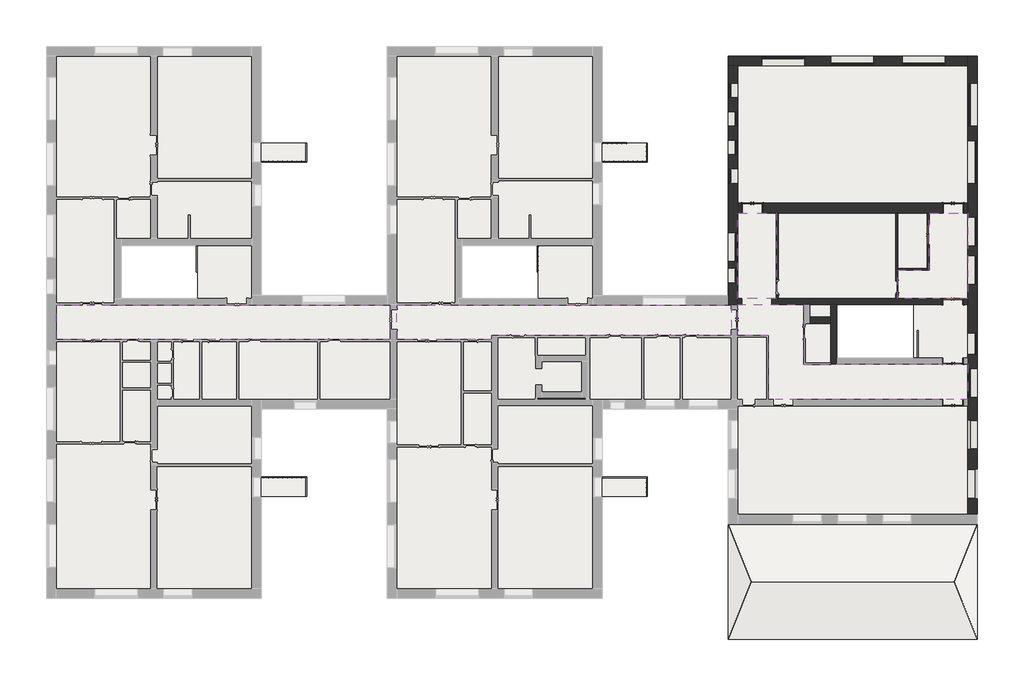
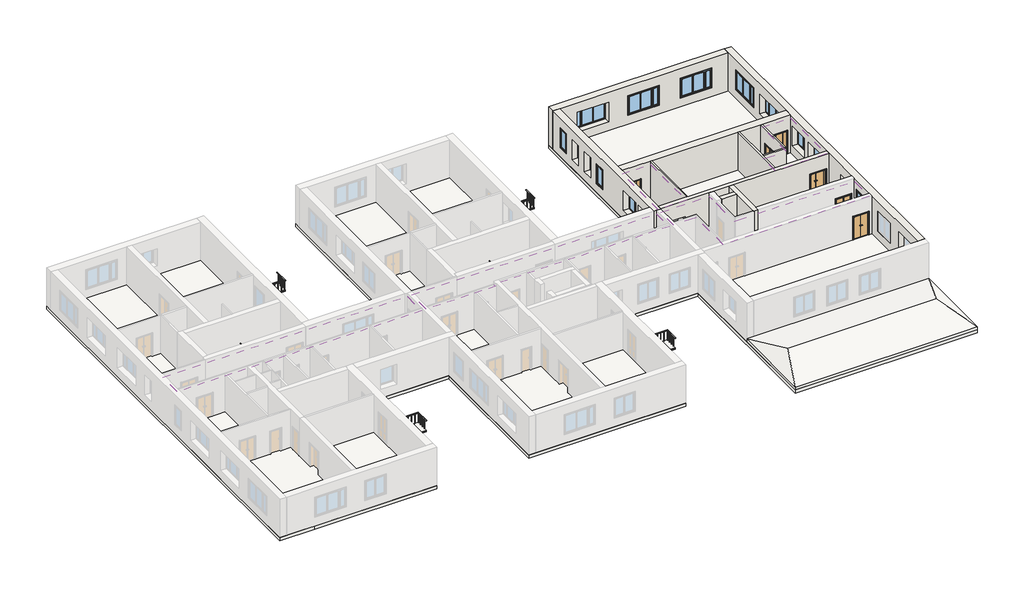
# One storey, part 4 of 4: 15 windows, 11 walls, 8 railings, 7 doors, 5 coverings, 5 slabs, 1 roof.
"""IFC4 building model written with IfcOpenShell, lengths in millimetres."""

from ifc_helpers import new_model, si_unit, frame, origin, place, context, project, spatial, polyline, outline, extrude, faceted_brep, transform, mapped, element, save
from components import door_6cda5d05, door_6ba15531, door_65913abd, door_e9d63ae3, door_53fc3f74, railing_7b2d479c, railing_28907bea, railing_1d3197ab, railing_a1995822, railing_34af6e40, railing_c3c35bb4, railing_029c4840, railing_70d821ff, window_17d24cb2, window_825c4489, window_d8f3b313, window_630a9bb4

model = new_model("IFC4")

# Units and contexts
model_context = context("Model", 3, world=origin())
ifc_project = project(units=[si_unit("LENGTHUNIT", "METRE", prefix="MILLI")], contexts=[model_context])

# Site, building, storey
site = spatial("IfcSite", under=ifc_project)
building = spatial("IfcBuilding", under=site)
storey = spatial("IfcBuildingStorey", under=building, Name="2 этаж", Elevation=3500.0)

# Coverings
placement = place(None, origin())
element("IfcCovering", 1, ObjectType="ADSK_Армстронг_600х600", at=placement, inside=storey, context=model_context, shape_type="SweptSolid", body=[
    extrude(outline(polyline([(-37832.3240021, 4024.6370105), (-37832.3240021, 6224.6370105), (-33922.7240021, 6224.6370105), (-25107.3240021, 6224.6370105), (-16612.3240021, 6224.6370105), (-16612.3240021, 4024.6370105), (-37832.3240021, 4024.6370105)])), frame((0.0, 0.0, 6700.0), z_axis=(0.0, 0.0, 1.0), x_axis=(1.0, 0.0, 0.0)), (0.0, 0.0, 1.0), 52.0),
])
element("IfcCovering", 2, ObjectType="ADSK_Армстронг_600х600", at=placement, inside=storey, context=model_context, shape_type="SweptSolid", body=[
    extrude(outline(polyline([(-3467.3240021, 6224.6370105), (5047.6759979, 6224.6370105), (5047.6759979, 4294.6370105), (-10172.3240021, 4294.6370105), (-10172.3240021, 4024.6370105), (-16192.3240021, 4024.6370105), (-16192.3240021, 6224.6370105), (-12282.3240021, 6224.6370105), (-3467.3240021, 6224.6370105)])), frame((0.0, 0.0, 6700.0), z_axis=(0.0, 0.0, 1.0), x_axis=(1.0, 0.0, 0.0)), (0.0, 0.0, 1.0), 52.0),
])
element("IfcCovering", 3, ObjectType="ADSK_Армстронг_600х600", at=placement, inside=storey, context=model_context, shape_type="SweptSolid", body=[
    extrude(outline(polyline([(11737.6759979, 2468.1849883), (20057.6759979, 2468.1849883), (20057.6759979, 204.6370105), (7387.6759979, 204.6370105), (7387.6759979, 4294.6370105), (5427.6759979, 4294.6370105), (5427.6759979, 6244.6370105), (9627.6759979, 6244.6370105), (9627.6759979, 5244.6370105), (9627.6759979, 2444.6370105), (11737.6759979, 2444.6370105), (11737.6759979, 2468.1849883)])), frame((0.0, 0.0, 6700.0), z_axis=(0.0, 0.0, 1.0), x_axis=(1.0, 0.0, 0.0)), (0.0, 0.0, 1.0), 52.0),
])
element("IfcCovering", 4, ObjectType="ADSK_Армстронг_600х600", at=placement, inside=storey, context=model_context, shape_type="SweptSolid", body=[
    extrude(outline(polyline([(5447.6759979, 6624.6370105), (5447.6759979, 12064.6370105), (7897.6759979, 12064.6370105), (7897.6759979, 6624.6370105), (5447.6759979, 6624.6370105)])), frame((0.0, 0.0, 6700.0), z_axis=(0.0, 0.0, 1.0), x_axis=(1.0, 0.0, 0.0)), (0.0, 0.0, 1.0), 52.0),
])
element("IfcCovering", 5, ObjectType="ADSK_Армстронг_600х600", at=placement, inside=storey, context=model_context, shape_type="SweptSolid", body=[
    extrude(outline(polyline([(20057.6759979, 12064.6370105), (20057.6759979, 6624.6370105), (15612.6759979, 6624.6370105), (15612.6759979, 8424.6370105), (17607.6759979, 8424.6370105), (17607.6759979, 12064.6370105), (20057.6759979, 12064.6370105)])), frame((0.0, 0.0, 6700.0), z_axis=(0.0, 0.0, 1.0), x_axis=(1.0, 0.0, 0.0)), (0.0, 0.0, 1.0), 52.0),
])

# Doors
door_shape = door_6cda5d05(model_context)
element("IfcDoor", 6, ObjectType="Наружная дверь 2-Навесная - Один проем наружу с порогом - 31173-2003 : ДСН ДКН М2 2100-1300 ГОСТ 31173-2003", at=placement, inside=storey, context=model_context, shape_type="MappedRepresentation", body=[
    mapped(door_shape, transform((17545.1759979, 10684.6370105, 3500.0), x_axis=(0.0, -1.0, 0.0), y_axis=(1.0, 0.0, 0.0), z_axis=(0.0, 0.0, 1.0))),
])
door_2_shape = door_6ba15531(model_context)
element("IfcDoor", 7, ObjectType="Наружная дверь 2-Навесная - Один проем наружу с порогом - 31173-2003 : ДСН ДКН М2 2100-1300 ГОСТ 31173-2003", at=placement, inside=storey, context=model_context, shape_type="MappedRepresentation", body=[
    mapped(door_2_shape, transform((19112.6759979, 4.6370105, 3500.0), x_axis=(1.0, 0.0, 0.0), y_axis=(0.0, 1.0, 0.0), z_axis=(0.0, 0.0, 1.0))),
])
door_3_shape = door_65913abd(model_context)
element("IfcDoor", 8, ObjectType="Наружная дверь 2-Навесная - Один проем наружу с порогом - 31173-2003 : ДСН ДКН М2 2100-1300 ГОСТ 31173-2003", at=placement, inside=storey, context=model_context, shape_type="MappedRepresentation", body=[
    mapped(door_3_shape, transform((19112.6759979, 6434.6370105, 3500.0), x_axis=(-1.0, 0.0, 0.0), y_axis=(0.0, -1.0, 0.0), z_axis=(0.0, 0.0, 1.0))),
])
element("IfcDoor", 9, ObjectType="Наружная дверь 2-Навесная - Один проем наружу с порогом - 31173-2003 : ДСН ДКН М2 2100-1300 ГОСТ 31173-2003", at=placement, inside=storey, context=model_context, shape_type="MappedRepresentation", body=[
    mapped(door_3_shape, transform((19112.6759979, 2658.1849883, 3500.0), x_axis=(1.0, 0.0, 0.0), y_axis=(0.0, 1.0, 0.0), z_axis=(0.0, 0.0, 1.0))),
])
door_4_shape = door_e9d63ae3(model_context)
element("IfcDoor", 10, ObjectType="Наружная дверь 2-Навесная - Один проем наружу с порогом - 31173-2003 : ДСН ДКН М2 2100-1300 ГОСТ 31173-2003", at=placement, inside=storey, context=model_context, shape_type="MappedRepresentation", body=[
    mapped(door_4_shape, transform((6382.6759979, 12384.6370105, 3500.0), x_axis=(-1.0, 0.0, 0.0), y_axis=(0.0, -1.0, 0.0), z_axis=(0.0, 0.0, 1.0))),
])
element("IfcDoor", 11, ObjectType="Наружная дверь 2-Навесная - Один проем наружу с порогом - 31173-2003 : ДСН ДКН М2 2100-1300 ГОСТ 31173-2003", at=placement, inside=storey, context=model_context, shape_type="MappedRepresentation", body=[
    mapped(door_4_shape, transform((19122.6759979, 12384.6370105, 3500.0), x_axis=(-1.0, 0.0, 0.0), y_axis=(0.0, -1.0, 0.0), z_axis=(0.0, 0.0, 1.0))),
])
door_5_shape = door_53fc3f74(model_context)
element("IfcDoor", 12, ObjectType="Внутренняя дверь 1-Навесная - 6629-88 : ДГ 21-9  ГОСТ 6629-88", at=placement, inside=storey, context=model_context, shape_type="MappedRepresentation", body=[
    mapped(door_5_shape, transform((15550.1759979, 7334.6370105, 3500.0), x_axis=(0.0, 1.0, 0.0), y_axis=(-1.0, 0.0, 0.0), z_axis=(0.0, 0.0, 1.0))),
])

# Railings
railing_shape = railing_7b2d479c(model_context)
element("IfcRailing", 13, ObjectType="ADSK_Стандартное_h 900 Поручень квадратный без направляющих", at=placement, inside=storey, context=model_context, shape_type="MappedRepresentation", body=[
    mapped(railing_shape, transform((0.0, 0.0, 0.0), x_axis=(1.0, 0.0, 0.0), y_axis=(0.0, 1.0, 0.0), z_axis=(0.0, 0.0, 1.0))),
])
railing_2_shape = railing_28907bea(model_context)
element("IfcRailing", 14, ObjectType="ADSK_Стандартное_h 900 Поручень квадратный без направляющих", at=placement, inside=storey, context=model_context, shape_type="MappedRepresentation", body=[
    mapped(railing_2_shape, transform((0.0, 0.0, 0.0), x_axis=(1.0, 0.0, 0.0), y_axis=(0.0, 1.0, 0.0), z_axis=(0.0, 0.0, 1.0))),
])
railing_3_shape = railing_1d3197ab(model_context)
element("IfcRailing", 15, ObjectType="ADSK_Стандартное_h 900 Поручень квадратный без направляющих", at=placement, inside=storey, context=model_context, shape_type="MappedRepresentation", body=[
    mapped(railing_3_shape, transform((0.0, 0.0, 0.0), x_axis=(1.0, 0.0, 0.0), y_axis=(0.0, 1.0, 0.0), z_axis=(0.0, 0.0, 1.0))),
])
railing_4_shape = railing_a1995822(model_context)
element("IfcRailing", 16, ObjectType="ADSK_Стандартное_h 900 Поручень квадратный без направляющих", at=placement, inside=storey, context=model_context, shape_type="MappedRepresentation", body=[
    mapped(railing_4_shape, transform((0.0, 0.0, 0.0), x_axis=(1.0, 0.0, 0.0), y_axis=(0.0, 1.0, 0.0), z_axis=(0.0, 0.0, 1.0))),
])
railing_5_shape = railing_34af6e40(model_context)
element("IfcRailing", 17, ObjectType="ADSK_Стандартное_h 900 Поручень квадратный без направляющих", at=placement, inside=storey, context=model_context, shape_type="MappedRepresentation", body=[
    mapped(railing_5_shape, transform((0.0, 0.0, 0.0), x_axis=(1.0, 0.0, 0.0), y_axis=(0.0, 1.0, 0.0), z_axis=(0.0, 0.0, 1.0))),
])
railing_6_shape = railing_c3c35bb4(model_context)
element("IfcRailing", 18, ObjectType="ADSK_Стандартное_h 900 Поручень квадратный без направляющих", at=placement, inside=storey, context=model_context, shape_type="MappedRepresentation", body=[
    mapped(railing_6_shape, transform((0.0, 0.0, 0.0), x_axis=(1.0, 0.0, 0.0), y_axis=(0.0, 1.0, 0.0), z_axis=(0.0, 0.0, 1.0))),
])
railing_7_shape = railing_029c4840(model_context)
element("IfcRailing", 19, ObjectType="ADSK_Стандартное_h 900 Поручень квадратный без направляющих", at=placement, inside=storey, context=model_context, shape_type="MappedRepresentation", body=[
    mapped(railing_7_shape, transform((0.0, 0.0, 0.0), x_axis=(1.0, 0.0, 0.0), y_axis=(0.0, 1.0, 0.0), z_axis=(0.0, 0.0, 1.0))),
])
railing_8_shape = railing_70d821ff(model_context)
element("IfcRailing", 20, ObjectType="ADSK_Стандартное_h 900 Поручень квадратный без направляющих", at=placement, inside=storey, context=model_context, shape_type="MappedRepresentation", body=[
    mapped(railing_8_shape, transform((0.0, 0.0, 0.0), x_axis=(1.0, 0.0, 0.0), y_axis=(0.0, 1.0, 0.0), z_axis=(0.0, 0.0, 1.0))),
])

# Roof
element("IfcRoof", 21, ObjectType="ADSK_Скатная_Мягкая_Ут200 доска30 покрытие10 (240)", at=placement, inside=storey, context=model_context, shape_type="Brep", body=[
    faceted_brep([(19143.4949762, -11365.3629895, 4349.2341177), (20614.4116155, -15025.3629895, 3500.0), (4890.9403803, -15025.3629895, 3500.0), (6361.8570196, -11365.3629895, 4349.2341177), (4890.9403803, -7705.3629895, 3500.0), (20614.4116155, -7705.3629895, 3500.0), (20667.6759979, -15025.3629895, 3746.3759237), (19196.7593586, -11365.3629895, 4595.6100414), (6308.5926372, -11365.3629895, 4595.6100414), (4837.6759979, -15025.3629895, 3746.3759237), (4837.6759979, -7705.3629895, 3746.3759237), (20667.6759979, -7705.3629895, 3746.3759237), (20667.6759979, -7705.3629895, 3500.0), (20667.6759979, -15025.3629895, 3500.0), (4837.6759979, -7705.3629895, 3500.0), (4837.6759979, -15025.3629895, 3500.0)], [[[0, 1, 2, 3]], [[4, 3, 2]], [[5, 0, 3, 4]], [[1, 0, 5]], [[6, 7, 8, 9]], [[10, 9, 8]], [[11, 10, 8, 7]], [[6, 11, 7]], [[12, 11, 6, 13]], [[14, 10, 11, 12, 5, 4]], [[15, 9, 10, 14]], [[13, 6, 9, 15, 2, 1]], [[13, 1, 5, 12]], [[2, 15, 14, 4]]]),
])

# Slabs
element("IfcSlab", 22, ObjectType="ADSK_Перекрытие_Плита с полом_Бетон220 лаги40 доска40_300", at=placement, inside=storey, context=model_context, shape_type="SweptSolid", body=[
    extrude(outline(polyline([(-38442.3240021, -12415.3629895), (-38442.3240021, 22644.6370105), (-24802.3240021, 22644.6370105), (-24802.3240021, 6834.6370105), (-16802.3240021, 6834.6370105), (-16802.3240021, 22644.6370105), (-3162.3240021, 22644.6370105), (-3162.3240021, 16519.4362632), (-3162.3240021, 15097.1370105), (-3162.3240021, 6834.6370105), (4837.6759979, 6834.6370105), (4837.6759979, 22034.6370105), (20667.6759979, 22034.6370105), (20667.6759979, -15025.3629895), (4837.6759979, -15025.3629895), (4837.6759979, -385.3629895), (-3162.3240021, -385.3629895), (-3162.3240021, -12415.3629895), (-16802.3240021, -12415.3629895), (-16802.3240021, -385.3629895), (-24802.3240021, -385.3629895), (-24802.3240021, -12415.3629895), (-35377.3240021, -12415.3629895), (-38442.3240021, -12415.3629895)]), holes=[polyline([(-28882.0291278, 10004.6370105), (-33712.7240021, 10004.6370105), (-33712.7240021, 6644.6370105), (-28882.0291278, 6644.6370105), (-28882.0291278, 10004.6370105)]), polyline([(-7241.6291278, 10004.6370105), (-12072.3240021, 10004.6370105), (-12072.3240021, 6644.6370105), (-7241.6291278, 6644.6370105), (-7241.6291278, 10004.6370105)]), polyline([(11737.6759979, 6244.6370105), (11737.6759979, 2848.1849883), (16582.6759979, 2848.1849883), (16582.6759979, 6244.6370105), (11737.6759979, 6244.6370105)])]), frame((0.0, 0.0, 3200.0), z_axis=(0.0, 0.0, 1.0), x_axis=(1.0, 0.0, 0.0)), (0.0, 0.0, 1.0), 300.0),
])
element("IfcSlab", 23, ObjectType="ADSK_Монолитная_С отделкой_200х80", at=placement, inside=storey, context=model_context, shape_type="SweptSolid", body=[
    extrude(outline(polyline([(-312.3240021, 16519.4362632), (-312.3240021, 15318.4207341), (-3162.3240021, 15318.4207341), (-3162.3240021, 16519.4362632), (-312.3240021, 16519.4362632)])), frame((0.0, 0.0, 3500.0), z_axis=(0.0, 0.0, 1.0), x_axis=(1.0, 0.0, 0.0)), (0.0, 0.0, 1.0), 65.8333333),
    extrude(outline(polyline([(-312.3240021, 15318.4207341), (-3162.3240021, 15318.4207341), (-3162.3240021, 16519.4362632), (-312.3240021, 16519.4362632), (-312.3240021, 15318.4207341)])), frame((0.0, 0.0, 3565.8333333), z_axis=(0.0, 0.0, 1.0), x_axis=(1.0, 0.0, 0.0)), (0.0, 0.0, 1.0), 80.0),
])
element("IfcSlab", 24, ObjectType="ADSK_Монолитная_С отделкой_200х80", at=placement, inside=storey, context=model_context, shape_type="SweptSolid", body=[
    extrude(outline(polyline([(-21952.3240021, 16519.4362632), (-21952.3240021, 15318.4207341), (-24802.3240021, 15318.4207341), (-24802.3240021, 16519.4362632), (-21952.3240021, 16519.4362632)])), frame((0.0, 0.0, 3500.0), z_axis=(0.0, 0.0, 1.0), x_axis=(1.0, 0.0, 0.0)), (0.0, 0.0, 1.0), 65.8333333),
    extrude(outline(polyline([(-21952.3240021, 15318.4207341), (-24802.3240021, 15318.4207341), (-24802.3240021, 16519.4362632), (-21952.3240021, 16519.4362632), (-21952.3240021, 15318.4207341)])), frame((0.0, 0.0, 3565.8333333), z_axis=(0.0, 0.0, 1.0), x_axis=(1.0, 0.0, 0.0)), (0.0, 0.0, 1.0), 80.0),
])
element("IfcSlab", 25, ObjectType="ADSK_Монолитная_С отделкой_200х80", at=placement, inside=storey, context=model_context, shape_type="SweptSolid", body=[
    extrude(outline(polyline([(-24802.3240021, -4725.3629895), (-21952.3240021, -4725.3629895), (-21952.3240021, -5926.3785186), (-24802.3240021, -5926.3785186), (-24802.3240021, -4725.3629895)])), frame((0.0, 0.0, 3500.0), z_axis=(0.0, 0.0, 1.0), x_axis=(1.0, 0.0, 0.0)), (0.0, 0.0, 1.0), 65.8333333),
    extrude(outline(polyline([(-21952.3240021, -4725.3629895), (-21952.3240021, -5926.3785186), (-24802.3240021, -5926.3785186), (-24802.3240021, -4725.3629895), (-21952.3240021, -4725.3629895)])), frame((0.0, 0.0, 3565.8333333), z_axis=(0.0, 0.0, 1.0), x_axis=(1.0, 0.0, 0.0)), (0.0, 0.0, 1.0), 80.0),
])
element("IfcSlab", 26, ObjectType="ADSK_Монолитная_С отделкой_200х80", at=placement, inside=storey, context=model_context, shape_type="SweptSolid", body=[
    extrude(outline(polyline([(-3162.3240021, -4730.5622422), (-312.3240021, -4730.5622422), (-312.3240021, -5931.5777713), (-3162.3240021, -5931.5777713), (-3162.3240021, -4730.5622422)])), frame((0.0, 0.0, 3500.0), z_axis=(0.0, 0.0, 1.0), x_axis=(1.0, 0.0, 0.0)), (0.0, 0.0, 1.0), 65.8333333),
    extrude(outline(polyline([(-312.3240021, -4730.5622422), (-312.3240021, -5931.5777713), (-3162.3240021, -5931.5777713), (-3162.3240021, -4730.5622422), (-312.3240021, -4730.5622422)])), frame((0.0, 0.0, 3565.8333333), z_axis=(0.0, 0.0, 1.0), x_axis=(1.0, 0.0, 0.0)), (0.0, 0.0, 1.0), 80.0),
])

# Walls
element("IfcWall", 27, ObjectType="ADSK_Внутренняя_Кирпич_610", at=placement, inside=storey, context=model_context, shape_type="Brep", body=[
    faceted_brep([(20667.6759979, -7095.3629895, 3500.0), (20667.6759979, 22034.6370105, 3500.0), (20667.6759979, 22034.6370105, 7000.0), (20667.6759979, -7095.3629895, 7000.0), (20667.6759979, 9349.6370105, 6120.0), (20667.6759979, 9349.6370105, 4300.0), (20667.6759979, 7519.6370105, 4300.0), (20667.6759979, 7519.6370105, 6120.0), (20667.6759979, 359.6370105, 4300.0), (20667.6759979, 359.6370105, 6120.0), (20667.6759979, 2189.6370105, 6120.0), (20667.6759979, 2189.6370105, 4300.0), (20667.6759979, -2940.3629895, 4300.0), (20667.6759979, -2940.3629895, 6120.0), (20667.6759979, -1110.3629895, 6120.0), (20667.6759979, -1110.3629895, 4300.0), (20667.6759979, 4448.1849883, 6120.0), (20667.6759979, 4448.1849883, 4300.0), (20667.6759979, 3068.1849883, 4300.0), (20667.6759979, 3068.1849883, 6120.0), (20667.6759979, -4225.3629895, 6120.0), (20667.6759979, -4225.3629895, 4300.0), (20667.6759979, -6055.3629895, 4300.0), (20667.6759979, -6055.3629895, 6120.0), (20667.6759979, 17584.6370105, 4300.0), (20667.6759979, 17584.6370105, 6120.0), (20667.6759979, 20314.6370105, 6120.0), (20667.6759979, 20314.6370105, 4300.0), (20667.6759979, 16649.6370105, 4300.0), (20667.6759979, 13919.6370105, 4300.0), (20667.6759979, 13919.6370105, 6120.0), (20667.6759979, 16649.6370105, 6120.0), (20667.6759979, 11799.6370105, 4300.0), (20667.6759979, 9969.6370105, 4300.0), (20667.6759979, 9969.6370105, 6120.0), (20667.6759979, 11799.6370105, 6120.0), (20057.6759979, 22034.6370105, 3500.0), (20057.6759979, 21424.6370105, 3500.0), (20057.6759979, 12704.6370105, 3500.0), (20057.6759979, 12064.6370105, 3500.0), (20057.6759979, 6624.6370105, 3500.0), (20057.6759979, 6244.6370105, 3500.0), (20057.6759979, 2848.1849883, 3500.0), (20057.6759979, 2468.1849883, 3500.0), (20057.6759979, 204.6370105, 3500.0), (20057.6759979, -195.3629895, 3500.0), (20057.6759979, -7095.3629895, 3500.0), (20057.6759979, -7095.3629895, 7000.0), (20057.6759979, -195.3629895, 7000.0), (20057.6759979, 204.6370105, 7000.0), (20057.6759979, 2468.1849883, 7000.0), (20057.6759979, 2848.1849883, 7000.0), (20057.6759979, 6244.6370105, 7000.0), (20057.6759979, 6624.6370105, 7000.0), (20057.6759979, 12064.6370105, 7000.0), (20057.6759979, 12704.6370105, 7000.0), (20057.6759979, 21424.6370105, 7000.0), (20057.6759979, 22034.6370105, 7000.0), (20057.6759979, 9349.6370105, 4300.0), (20057.6759979, 9349.6370105, 6120.0), (20057.6759979, 7519.6370105, 6120.0), (20057.6759979, 7519.6370105, 4300.0), (20057.6759979, 359.6370105, 6120.0), (20057.6759979, 359.6370105, 4300.0), (20057.6759979, 2189.6370105, 4300.0), (20057.6759979, 2189.6370105, 6120.0), (20057.6759979, -2940.3629895, 6120.0), (20057.6759979, -2940.3629895, 4300.0), (20057.6759979, -1110.3629895, 4300.0), (20057.6759979, -1110.3629895, 6120.0), (20057.6759979, 4448.1849883, 4300.0), (20057.6759979, 4448.1849883, 6120.0), (20057.6759979, 3068.1849883, 6120.0), (20057.6759979, 3068.1849883, 4300.0), (20057.6759979, -4225.3629895, 4300.0), (20057.6759979, -4225.3629895, 6120.0), (20057.6759979, -6055.3629895, 6120.0), (20057.6759979, -6055.3629895, 4300.0), (20057.6759979, 17584.6370105, 6120.0), (20057.6759979, 17584.6370105, 4300.0), (20057.6759979, 20314.6370105, 4300.0), (20057.6759979, 20314.6370105, 6120.0), (20057.6759979, 16649.6370105, 4300.0), (20057.6759979, 16649.6370105, 6120.0), (20057.6759979, 13919.6370105, 6120.0), (20057.6759979, 13919.6370105, 4300.0), (20057.6759979, 11799.6370105, 4300.0), (20057.6759979, 11799.6370105, 6120.0), (20057.6759979, 9969.6370105, 6120.0), (20057.6759979, 9969.6370105, 4300.0)], [[[0, 1, 2, 3], [4, 5, 6, 7], [8, 9, 10, 11], [12, 13, 14, 15], [16, 17, 18, 19], [20, 21, 22, 23], [24, 25, 26, 27], [28, 29, 30, 31], [32, 33, 34, 35]], [[36, 37, 38, 39, 40, 41, 42, 43, 44, 45, 46, 47, 48, 49, 50, 51, 52, 53, 54, 55, 56, 57], [58, 59, 60, 61], [62, 63, 64, 65], [66, 67, 68, 69], [70, 71, 72, 73], [74, 75, 76, 77], [78, 79, 80, 81], [82, 83, 84, 85], [86, 87, 88, 89]], [[1, 0, 46, 45, 44, 43, 42, 41, 40, 39, 38, 37, 36]], [[0, 3, 47, 46]], [[2, 1, 36, 57]], [[59, 58, 5, 4]], [[60, 59, 4, 7]], [[61, 60, 7, 6]], [[58, 61, 6, 5]], [[9, 8, 63, 62]], [[10, 9, 62, 65]], [[11, 10, 65, 64]], [[8, 11, 64, 63]], [[13, 12, 67, 66]], [[14, 13, 66, 69]], [[15, 14, 69, 68]], [[12, 15, 68, 67]], [[71, 70, 17, 16]], [[72, 71, 16, 19]], [[73, 72, 19, 18]], [[70, 73, 18, 17]], [[75, 74, 21, 20]], [[76, 75, 20, 23]], [[77, 76, 23, 22]], [[74, 77, 22, 21]], [[24, 79, 78, 25]], [[25, 78, 81, 26]], [[26, 81, 80, 27]], [[79, 24, 27, 80]], [[83, 82, 28, 31]], [[84, 83, 31, 30]], [[85, 84, 30, 29]], [[82, 85, 29, 28]], [[87, 86, 32, 35]], [[88, 87, 35, 34]], [[89, 88, 34, 33]], [[86, 89, 33, 32]], [[3, 2, 57, 56, 55, 54, 53, 52, 51, 50, 49, 48, 47]]]),
])
element("IfcWall", 28, ObjectType="ADSK_Внутренняя_Кирпич_610", at=placement, inside=storey, context=model_context, shape_type="Brep", body=[
    faceted_brep([(20057.6759979, 22034.6370105, 3500.0), (4837.6759979, 22034.6370105, 3500.0), (4837.6759979, 22034.6370105, 7000.0), (20057.6759979, 22034.6370105, 7000.0), (6957.6759979, 22034.6370105, 4300.0), (9687.6759979, 22034.6370105, 4300.0), (9687.6759979, 22034.6370105, 6120.0), (6957.6759979, 22034.6370105, 6120.0), (14087.6759979, 22034.6370105, 4300.0), (14087.6759979, 22034.6370105, 6120.0), (11357.6759979, 22034.6370105, 6120.0), (11357.6759979, 22034.6370105, 4300.0), (18627.6759979, 22034.6370105, 4300.0), (18627.6759979, 22034.6370105, 6120.0), (15897.6759979, 22034.6370105, 6120.0), (15897.6759979, 22034.6370105, 4300.0), (20057.6759979, 21424.6370105, 3500.0), (20057.6759979, 21424.6370105, 7000.0), (5447.6759979, 21424.6370105, 7000.0), (4837.6759979, 21424.6370105, 7000.0), (4837.6759979, 21424.6370105, 3500.0), (5447.6759979, 21424.6370105, 3500.0), (6957.6759979, 21424.6370105, 4300.0), (6957.6759979, 21424.6370105, 6120.0), (9687.6759979, 21424.6370105, 6120.0), (9687.6759979, 21424.6370105, 4300.0), (14087.6759979, 21424.6370105, 4300.0), (11357.6759979, 21424.6370105, 4300.0), (11357.6759979, 21424.6370105, 6120.0), (14087.6759979, 21424.6370105, 6120.0), (18627.6759979, 21424.6370105, 4300.0), (15897.6759979, 21424.6370105, 4300.0), (15897.6759979, 21424.6370105, 6120.0), (18627.6759979, 21424.6370105, 6120.0)], [[[0, 1, 2, 3], [4, 5, 6, 7], [8, 9, 10, 11], [12, 13, 14, 15]], [[16, 17, 18, 19, 20, 21], [22, 23, 24, 25], [26, 27, 28, 29], [30, 31, 32, 33]], [[1, 0, 16, 21, 20]], [[0, 3, 17, 16]], [[2, 1, 20, 19]], [[23, 22, 4, 7]], [[24, 23, 7, 6]], [[25, 24, 6, 5]], [[22, 25, 5, 4]], [[9, 8, 26, 29]], [[10, 9, 29, 28]], [[11, 10, 28, 27]], [[8, 11, 27, 26]], [[13, 12, 30, 33]], [[14, 13, 33, 32]], [[15, 14, 32, 31]], [[12, 15, 31, 30]], [[3, 2, 19, 18, 17]]]),
])
element("IfcWall", 29, ObjectType="ADSK_Внутренняя_Кирпич_610", at=placement, inside=storey, context=model_context, shape_type="Brep", body=[
    faceted_brep([(4837.6759979, 21424.6370105, 3500.0), (4837.6759979, 6834.6370105, 3500.0), (4837.6759979, 6224.6370105, 3500.0), (4837.6759979, 6224.6370105, 7000.0), (4837.6759979, 6834.6370105, 7000.0), (4837.6759979, 21424.6370105, 7000.0), (4837.6759979, 19399.6370105, 4300.0), (4837.6759979, 20329.6370105, 4300.0), (4837.6759979, 20329.6370105, 6120.0), (4837.6759979, 19399.6370105, 6120.0), (4837.6759979, 18509.6370105, 4300.0), (4837.6759979, 18509.6370105, 6120.0), (4837.6759979, 17579.6370105, 6120.0), (4837.6759979, 17579.6370105, 4300.0), (4837.6759979, 16689.6370105, 4300.0), (4837.6759979, 16689.6370105, 6120.0), (4837.6759979, 15759.6370105, 6120.0), (4837.6759979, 15759.6370105, 4300.0), (4837.6759979, 13939.6370105, 4300.0), (4837.6759979, 14869.6370105, 4300.0), (4837.6759979, 14869.6370105, 6120.0), (4837.6759979, 13939.6370105, 6120.0), (4837.6759979, 8559.6370105, 4300.0), (4837.6759979, 8559.6370105, 6120.0), (4837.6759979, 7629.6370105, 6120.0), (4837.6759979, 7629.6370105, 4300.0), (4837.6759979, 10809.6370105, 4300.0), (4837.6759979, 10809.6370105, 6120.0), (4837.6759979, 8979.6370105, 6120.0), (4837.6759979, 8979.6370105, 4300.0), (5447.6759979, 21424.6370105, 3500.0), (5447.6759979, 21424.6370105, 7000.0), (5447.6759979, 12704.6370105, 7000.0), (5447.6759979, 12064.6370105, 7000.0), (5447.6759979, 6624.6370105, 7000.0), (5447.6759979, 6244.6370105, 7000.0), (5447.6759979, 6224.6370105, 7000.0), (5447.6759979, 6224.6370105, 3500.0), (5447.6759979, 6244.6370105, 3500.0), (5447.6759979, 6624.6370105, 3500.0), (5447.6759979, 12064.6370105, 3500.0), (5447.6759979, 12704.6370105, 3500.0), (5447.6759979, 19399.6370105, 4300.0), (5447.6759979, 19399.6370105, 6120.0), (5447.6759979, 20329.6370105, 6120.0), (5447.6759979, 20329.6370105, 4300.0), (5447.6759979, 18509.6370105, 4300.0), (5447.6759979, 17579.6370105, 4300.0), (5447.6759979, 17579.6370105, 6120.0), (5447.6759979, 18509.6370105, 6120.0), (5447.6759979, 16689.6370105, 4300.0), (5447.6759979, 15759.6370105, 4300.0), (5447.6759979, 15759.6370105, 6120.0), (5447.6759979, 16689.6370105, 6120.0), (5447.6759979, 13939.6370105, 4300.0), (5447.6759979, 13939.6370105, 6120.0), (5447.6759979, 14869.6370105, 6120.0), (5447.6759979, 14869.6370105, 4300.0), (5447.6759979, 8559.6370105, 4300.0), (5447.6759979, 7629.6370105, 4300.0), (5447.6759979, 7629.6370105, 6120.0), (5447.6759979, 8559.6370105, 6120.0), (5447.6759979, 10809.6370105, 4300.0), (5447.6759979, 8979.6370105, 4300.0), (5447.6759979, 8979.6370105, 6120.0), (5447.6759979, 10809.6370105, 6120.0), (5427.6759979, 6224.6370105, 3500.0), (5047.6759979, 6224.6370105, 3500.0), (5427.6759979, 6224.6370105, 7000.0), (5047.6759979, 6224.6370105, 7000.0)], [[[0, 1, 2, 3, 4, 5], [6, 7, 8, 9], [10, 11, 12, 13], [14, 15, 16, 17], [18, 19, 20, 21], [22, 23, 24, 25], [26, 27, 28, 29]], [[30, 31, 32, 33, 34, 35, 36, 37, 38, 39, 40, 41], [42, 43, 44, 45], [46, 47, 48, 49], [50, 51, 52, 53], [54, 55, 56, 57], [58, 59, 60, 61], [62, 63, 64, 65]], [[2, 1, 0, 30, 41, 40, 39, 38, 37, 66, 67]], [[0, 5, 31, 30]], [[3, 2, 67, 66, 37, 36, 68, 69]], [[43, 42, 6, 9]], [[44, 43, 9, 8]], [[45, 44, 8, 7]], [[42, 45, 7, 6]], [[11, 10, 46, 49]], [[12, 11, 49, 48]], [[13, 12, 48, 47]], [[10, 13, 47, 46]], [[15, 14, 50, 53]], [[16, 15, 53, 52]], [[17, 16, 52, 51]], [[14, 17, 51, 50]], [[55, 54, 18, 21]], [[56, 55, 21, 20]], [[57, 56, 20, 19]], [[54, 57, 19, 18]], [[23, 22, 58, 61]], [[24, 23, 61, 60]], [[25, 24, 60, 59]], [[22, 25, 59, 58]], [[27, 26, 62, 65]], [[28, 27, 65, 64]], [[29, 28, 64, 63]], [[26, 29, 63, 62]], [[5, 4, 3, 69, 68, 36, 35, 34, 33, 32, 31]]]),
])
element("IfcWall", 30, ObjectType="ADSK_Внутренняя_Перегородка_75_25x2", at=placement, inside=storey, context=model_context, shape_type="SweptSolid", body=[
    extrude(outline(polyline([(12064.6370105, 7000.0), (12064.6370105, 3500.0), (7789.6370105, 3500.0), (7789.6370105, 5570.0), (6879.6370105, 5570.0), (6879.6370105, 3500.0), (6624.6370105, 3500.0), (6624.6370105, 7000.0), (12064.6370105, 7000.0)])), frame((7897.6759979, 0.0, 0.0), z_axis=(1.0, 0.0, 0.0), x_axis=(0.0, 1.0, 0.0)), (0.0, 0.0, 1.0), 125.0),
])
element("IfcWall", 31, ObjectType="ADSK_Внутренняя_Перегородка_75_25x2", at=placement, inside=storey, context=model_context, shape_type="Brep", body=[
    faceted_brep([(15487.6759979, 12064.6370105, 7000.0), (15487.6759979, 12064.6370105, 3500.0), (15487.6759979, 7789.6370105, 3500.0), (15487.6759979, 7789.6370105, 5570.0), (15487.6759979, 6879.6370105, 5570.0), (15487.6759979, 6879.6370105, 3500.0), (15487.6759979, 6624.6370105, 3500.0), (15487.6759979, 6624.6370105, 7000.0), (15612.6759979, 12064.6370105, 3500.0), (15612.6759979, 12064.6370105, 7000.0), (15612.6759979, 8549.6370105, 7000.0), (15612.6759979, 8424.6370105, 7000.0), (15612.6759979, 6624.6370105, 7000.0), (15612.6759979, 6624.6370105, 3500.0), (15612.6759979, 6879.6370105, 3500.0), (15612.6759979, 6879.6370105, 5570.0), (15612.6759979, 7789.6370105, 5570.0), (15612.6759979, 7789.6370105, 3500.0), (15612.6759979, 8424.6370105, 3500.0), (15612.6759979, 8549.6370105, 3500.0)], [[[0, 1, 2, 3, 4, 5, 6, 7]], [[8, 9, 10, 11, 12, 13, 14, 15, 16, 17, 18, 19]], [[1, 8, 19, 18, 17, 2]], [[13, 6, 5, 14]], [[1, 0, 9, 8]], [[7, 6, 13, 12]], [[16, 3, 2, 17]], [[3, 16, 15, 4]], [[4, 15, 14, 5]], [[0, 7, 12, 11, 10, 9]]]),
])
element("IfcWall", 32, ObjectType="ADSK_Внутренняя_Перегородка_75_25x2", at=placement, inside=storey, context=model_context, shape_type="Brep", body=[
    faceted_brep([(15612.6759979, 8424.6370105, 3500.0), (17607.6759979, 8424.6370105, 3500.0), (17607.6759979, 8424.6370105, 7000.0), (15612.6759979, 8424.6370105, 7000.0), (15612.6759979, 8549.6370105, 3500.0), (15612.6759979, 8549.6370105, 7000.0), (17482.6759979, 8549.6370105, 7000.0), (17607.6759979, 8549.6370105, 7000.0), (17607.6759979, 8549.6370105, 3500.0), (17482.6759979, 8549.6370105, 3500.0)], [[[0, 1, 2, 3]], [[4, 5, 6, 7, 8, 9]], [[1, 0, 4, 9, 8]], [[0, 3, 5, 4]], [[2, 1, 8, 7]], [[3, 2, 7, 6, 5]]]),
])
element("IfcWall", 33, ObjectType="ADSK_Внутренняя_Перегородка_75_25x2", at=placement, inside=storey, context=model_context, shape_type="SweptSolid", body=[
    extrude(outline(polyline([(8549.6370105, 3500.0), (8549.6370105, 7000.0), (12064.6370105, 7000.0), (12064.6370105, 3500.0), (11354.6370105, 3500.0), (11354.6370105, 5620.0), (10014.6370105, 5620.0), (10014.6370105, 3500.0), (8549.6370105, 3500.0)])), frame((17482.6759979, 0.0, 0.0), z_axis=(1.0, 0.0, 0.0), x_axis=(0.0, 1.0, 0.0)), (0.0, 0.0, 1.0), 125.0),
])
element("IfcWall", 34, ObjectType="ADSK_Внутренняя_Кирпич_640", at=placement, inside=storey, context=model_context, shape_type="Brep", body=[
    faceted_brep([(20057.6759979, 12064.6370105, 3500.0), (20057.6759979, 12064.6370105, 7000.0), (17607.6759979, 12064.6370105, 7000.0), (17482.6759979, 12064.6370105, 7000.0), (15612.6759979, 12064.6370105, 7000.0), (15487.6759979, 12064.6370105, 7000.0), (8022.6759979, 12064.6370105, 7000.0), (7897.6759979, 12064.6370105, 7000.0), (5447.6759979, 12064.6370105, 7000.0), (5447.6759979, 12064.6370105, 3500.0), (5712.6759979, 12064.6370105, 3500.0), (5712.6759979, 12064.6370105, 5620.0), (7052.6759979, 12064.6370105, 5620.0), (7052.6759979, 12064.6370105, 3500.0), (7897.6759979, 12064.6370105, 3500.0), (8022.6759979, 12064.6370105, 3500.0), (15487.6759979, 12064.6370105, 3500.0), (15612.6759979, 12064.6370105, 3500.0), (17482.6759979, 12064.6370105, 3500.0), (17607.6759979, 12064.6370105, 3500.0), (18452.6759979, 12064.6370105, 3500.0), (18452.6759979, 12064.6370105, 5620.0), (19792.6759979, 12064.6370105, 5620.0), (19792.6759979, 12064.6370105, 3500.0), (20057.6759979, 12704.6370105, 7000.0), (20057.6759979, 12704.6370105, 3500.0), (19792.6759979, 12704.6370105, 3500.0), (19792.6759979, 12704.6370105, 5620.0), (18452.6759979, 12704.6370105, 5620.0), (18452.6759979, 12704.6370105, 3500.0), (7052.6759979, 12704.6370105, 3500.0), (7052.6759979, 12704.6370105, 5620.0), (5712.6759979, 12704.6370105, 5620.0), (5712.6759979, 12704.6370105, 3500.0), (5447.6759979, 12704.6370105, 3500.0), (5447.6759979, 12704.6370105, 7000.0)], [[[0, 1, 2, 3, 4, 5, 6, 7, 8, 9, 10, 11, 12, 13, 14, 15, 16, 17, 18, 19, 20, 21, 22, 23]], [[24, 25, 26, 27, 28, 29, 30, 31, 32, 33, 34, 35]], [[9, 34, 33, 10]], [[25, 0, 23, 26]], [[13, 30, 29, 20, 19, 18, 17, 16, 15, 14]], [[1, 0, 25, 24]], [[9, 8, 35, 34]], [[32, 11, 10, 33]], [[11, 32, 31, 12]], [[12, 31, 30, 13]], [[28, 21, 20, 29]], [[21, 28, 27, 22]], [[22, 27, 26, 23]], [[8, 7, 6, 5, 4, 3, 2, 1, 24, 35]]]),
])
element("IfcWall", 35, ObjectType="ADSK_Внутренняя_Кирпич_380", at=placement, inside=storey, context=model_context, shape_type="Brep", body=[
    faceted_brep([(18442.6759979, 6624.6370105, 3500.0), (15612.6759979, 6624.6370105, 3500.0), (15487.6759979, 6624.6370105, 3500.0), (8022.6759979, 6624.6370105, 3500.0), (7897.6759979, 6624.6370105, 3500.0), (7615.1759979, 6624.6370105, 3500.0), (7615.1759979, 6624.6370105, 5570.0), (5705.1759979, 6624.6370105, 5570.0), (5705.1759979, 6624.6370105, 3500.0), (5447.6759979, 6624.6370105, 3500.0), (5447.6759979, 6624.6370105, 7000.0), (7897.6759979, 6624.6370105, 7000.0), (8022.6759979, 6624.6370105, 7000.0), (15487.6759979, 6624.6370105, 7000.0), (15612.6759979, 6624.6370105, 7000.0), (20057.6759979, 6624.6370105, 7000.0), (20057.6759979, 6624.6370105, 3500.0), (19782.6759979, 6624.6370105, 3500.0), (19782.6759979, 6624.6370105, 5620.0), (18442.6759979, 6624.6370105, 5620.0), (7615.1759979, 6244.6370105, 5570.0), (7615.1759979, 6244.6370105, 3500.0), (9627.6759979, 6244.6370105, 3500.0), (10027.6759979, 6244.6370105, 3500.0), (11357.6759979, 6244.6370105, 3500.0), (11737.6759979, 6244.6370105, 3500.0), (18442.6759979, 6244.6370105, 3500.0), (18442.6759979, 6244.6370105, 5620.0), (19782.6759979, 6244.6370105, 5620.0), (19782.6759979, 6244.6370105, 3500.0), (20057.6759979, 6244.6370105, 3500.0), (20057.6759979, 6244.6370105, 7000.0), (11737.6759979, 6244.6370105, 7000.0), (11357.6759979, 6244.6370105, 7000.0), (10027.6759979, 6244.6370105, 7000.0), (9627.6759979, 6244.6370105, 7000.0), (5447.6759979, 6244.6370105, 7000.0), (5447.6759979, 6244.6370105, 3500.0), (5705.1759979, 6244.6370105, 3500.0), (5705.1759979, 6244.6370105, 5570.0)], [[[0, 1, 2, 3, 4, 5, 6, 7, 8, 9, 10, 11, 12, 13, 14, 15, 16, 17, 18, 19]], [[20, 21, 22, 23, 24, 25, 26, 27, 28, 29, 30, 31, 32, 33, 34, 35, 36, 37, 38, 39]], [[16, 30, 29, 17]], [[38, 37, 9, 8]], [[26, 25, 24, 23, 22, 21, 5, 4, 3, 2, 1, 0]], [[10, 9, 37, 36]], [[16, 15, 31, 30]], [[19, 27, 26, 0]], [[27, 19, 18, 28]], [[28, 18, 17, 29]], [[15, 14, 13, 12, 11, 10, 36, 35, 34, 33, 32, 31]], [[8, 7, 39, 38]], [[6, 5, 21, 20]], [[7, 6, 20, 39]]]),
])
element("IfcWall", 36, ObjectType="ADSK_Внутренняя_Кирпич_380+20", at=placement, inside=storey, context=model_context, shape_type="SweptSolid", body=[
    extrude(outline(polyline([(11357.6759979, 5044.6370105), (10027.6759979, 5044.6370105), (10027.6759979, 5444.6370105), (11357.6759979, 5444.6370105), (11357.6759979, 5044.6370105)])), frame((0.0, 0.0, 3500.0), z_axis=(0.0, 0.0, 1.0), x_axis=(1.0, 0.0, 0.0)), (0.0, 0.0, 1.0), 3500.0),
])
element("IfcWall", 37, ObjectType="ADSK_Внутренняя_Кирпич_380", at=placement, inside=storey, context=model_context, shape_type="Brep", body=[
    faceted_brep([(11357.6759979, 6244.6370105, 3500.0), (11357.6759979, 5444.6370105, 3500.0), (11357.6759979, 5044.6370105, 3500.0), (11357.6759979, 2544.6370105, 3500.0), (11357.6759979, 2468.1849883, 3500.0), (11357.6759979, 2468.1849883, 7000.0), (11357.6759979, 2544.6370105, 7000.0), (11357.6759979, 5044.6370105, 7000.0), (11357.6759979, 5444.6370105, 7000.0), (11357.6759979, 6244.6370105, 7000.0), (11737.6759979, 6244.6370105, 3500.0), (11737.6759979, 6244.6370105, 7000.0), (11737.6759979, 2848.1849883, 7000.0), (11737.6759979, 2468.1849883, 7000.0), (11737.6759979, 2468.1849883, 3500.0), (11737.6759979, 2848.1849883, 3500.0)], [[[0, 1, 2, 3, 4, 5, 6, 7, 8, 9]], [[10, 11, 12, 13, 14, 15]], [[4, 3, 2, 1, 0, 10, 15, 14]], [[0, 9, 11, 10]], [[5, 4, 14, 13]], [[9, 8, 7, 6, 5, 13, 12, 11]]]),
])

# Windows
window_shape = window_17d24cb2(model_context)
element("IfcWindow", 38, ObjectType="Окно 3-Распашное - Разделенные наружные и парные внутренние переплеты с остеклением - ГОСТ 11214-2003 : ОД РСП Г1 1760-2670-138 ГОСТ 11214-2003", at=placement, inside=storey, context=model_context, shape_type="MappedRepresentation", body=[
    mapped(window_shape, transform((8342.6759979, 21729.6370105, 3500.0), x_axis=(1.0, 0.0, 0.0), y_axis=(0.0, 1.0, 0.0), z_axis=(0.0, 0.0, 1.0))),
])
element("IfcWindow", 39, ObjectType="Окно 3-Распашное - Разделенные наружные и парные внутренние переплеты с остеклением - ГОСТ 11214-2003 : ОД РСП Г1 1760-2670-138 ГОСТ 11214-2003", at=placement, inside=storey, context=model_context, shape_type="MappedRepresentation", body=[
    mapped(window_shape, transform((12702.6759979, 21729.6370105, 3500.0), x_axis=(-1.0, 0.0, 0.0), y_axis=(0.0, -1.0, 0.0), z_axis=(0.0, 0.0, 1.0))),
])
element("IfcWindow", 40, ObjectType="Окно 3-Распашное - Разделенные наружные и парные внутренние переплеты с остеклением - ГОСТ 11214-2003 : ОД РСП Г1 1760-2670-138 ГОСТ 11214-2003", at=placement, inside=storey, context=model_context, shape_type="MappedRepresentation", body=[
    mapped(window_shape, transform((17242.6759979, 21729.6370105, 3500.0), x_axis=(-1.0, 0.0, 0.0), y_axis=(0.0, -1.0, 0.0), z_axis=(0.0, 0.0, 1.0))),
])
element("IfcWindow", 41, ObjectType="Окно 3-Распашное - Разделенные наружные и парные внутренние переплеты с остеклением - ГОСТ 11214-2003 : ОД РСП Г1 1760-2670-138 ГОСТ 11214-2003", at=placement, inside=storey, context=model_context, shape_type="MappedRepresentation", body=[
    mapped(window_shape, transform((20362.6759979, 18969.6370105, 3500.0), x_axis=(0.0, 1.0, 0.0), y_axis=(-1.0, 0.0, 0.0), z_axis=(0.0, 0.0, 1.0))),
])
element("IfcWindow", 42, ObjectType="Окно 3-Распашное - Разделенные наружные и парные внутренние переплеты с остеклением - ГОСТ 11214-2003 : ОД РСП Г1 1760-2670-138 ГОСТ 11214-2003", at=placement, inside=storey, context=model_context, shape_type="MappedRepresentation", body=[
    mapped(window_shape, transform((20362.6759979, 15264.6370105, 3500.0), x_axis=(0.0, -1.0, 0.0), y_axis=(1.0, 0.0, 0.0), z_axis=(0.0, 0.0, 1.0))),
])
window_2_shape = window_825c4489(model_context)
element("IfcWindow", 43, ObjectType="Окно 2-Распашное - Разделенные наружные и парные внутренние переплеты с остеклением - ГОСТ 11214-2003 : ОД РСП Г1 1760-1770-138 ГОСТ 11214-2003", at=placement, inside=storey, context=model_context, shape_type="MappedRepresentation", body=[
    mapped(window_2_shape, transform((5142.6759979, 9874.6370105, 3500.0), x_axis=(0.0, -1.0, 0.0), y_axis=(1.0, 0.0, 0.0), z_axis=(0.0, 0.0, 1.0))),
])
element("IfcWindow", 44, ObjectType="Окно 2-Распашное - Разделенные наружные и парные внутренние переплеты с остеклением - ГОСТ 11214-2003 : ОД РСП Г1 1760-1770-138 ГОСТ 11214-2003", at=placement, inside=storey, context=model_context, shape_type="MappedRepresentation", body=[
    mapped(window_2_shape, transform((20362.6759979, 8414.6370105, 3500.0), x_axis=(0.0, -1.0, 0.0), y_axis=(1.0, 0.0, 0.0), z_axis=(0.0, 0.0, 1.0))),
])
element("IfcWindow", 45, ObjectType="Окно 2-Распашное - Разделенные наружные и парные внутренние переплеты с остеклением - ГОСТ 11214-2003 : ОД РСП Г1 1760-1770-138 ГОСТ 11214-2003", at=placement, inside=storey, context=model_context, shape_type="MappedRepresentation", body=[
    mapped(window_2_shape, transform((20362.6759979, 1294.6370105, 3500.0), x_axis=(0.0, 1.0, 0.0), y_axis=(-1.0, 0.0, 0.0), z_axis=(0.0, 0.0, 1.0))),
])
element("IfcWindow", 46, ObjectType="Окно 2-Распашное - Разделенные наружные и парные внутренние переплеты с остеклением - ГОСТ 11214-2003 : ОД РСП Г1 1760-1770-138 ГОСТ 11214-2003", at=placement, inside=storey, context=model_context, shape_type="MappedRepresentation", body=[
    mapped(window_2_shape, transform((20362.6759979, 10864.6370105, 3500.0), x_axis=(0.0, -1.0, 0.0), y_axis=(1.0, 0.0, 0.0), z_axis=(0.0, 0.0, 1.0))),
])
window_3_shape = window_d8f3b313(model_context)
element("IfcWindow", 47, ObjectType="Окно 1-Распашное - Разделенные наружные и парные внутренние переплеты с остеклением - ГОСТ 11214-2003 : ОД РСП Г1 1760-1320-138 ГОСТ 11214-2003", at=placement, inside=storey, context=model_context, shape_type="MappedRepresentation", body=[
    mapped(window_3_shape, transform((20362.6759979, 3738.1849883, 3500.0), x_axis=(0.0, -1.0, 0.0), y_axis=(1.0, 0.0, 0.0), z_axis=(0.0, 0.0, 1.0))),
])
window_4_shape = window_630a9bb4(model_context)
element("IfcWindow", 48, ObjectType="Окно 1-Распашное - Разделенные наружные и парные внутренние переплеты с остеклением - ГОСТ 11214-2003 : ОД РСП Г1 1760-870-138 ГОСТ 11214-2003", at=placement, inside=storey, context=model_context, shape_type="MappedRepresentation", body=[
    mapped(window_4_shape, transform((5142.6759979, 19884.6370105, 3500.0), x_axis=(0.0, 1.0, 0.0), y_axis=(-1.0, 0.0, 0.0), z_axis=(0.0, 0.0, 1.0))),
])
element("IfcWindow", 49, ObjectType="Окно 1-Распашное - Разделенные наружные и парные внутренние переплеты с остеклением - ГОСТ 11214-2003 : ОД РСП Г1 1760-870-138 ГОСТ 11214-2003", at=placement, inside=storey, context=model_context, shape_type="MappedRepresentation", body=[
    mapped(window_4_shape, transform((5142.6759979, 18024.6370105, 3500.0), x_axis=(0.0, -1.0, 0.0), y_axis=(1.0, 0.0, 0.0), z_axis=(0.0, 0.0, 1.0))),
])
element("IfcWindow", 50, ObjectType="Окно 1-Распашное - Разделенные наружные и парные внутренние переплеты с остеклением - ГОСТ 11214-2003 : ОД РСП Г1 1760-870-138 ГОСТ 11214-2003", at=placement, inside=storey, context=model_context, shape_type="MappedRepresentation", body=[
    mapped(window_4_shape, transform((5142.6759979, 16204.6370105, 3500.0), x_axis=(0.0, -1.0, 0.0), y_axis=(1.0, 0.0, 0.0), z_axis=(0.0, 0.0, 1.0))),
])
element("IfcWindow", 51, ObjectType="Окно 1-Распашное - Разделенные наружные и парные внутренние переплеты с остеклением - ГОСТ 11214-2003 : ОД РСП Г1 1760-870-138 ГОСТ 11214-2003", at=placement, inside=storey, context=model_context, shape_type="MappedRepresentation", body=[
    mapped(window_4_shape, transform((5142.6759979, 14424.6370105, 3500.0), x_axis=(0.0, 1.0, 0.0), y_axis=(-1.0, 0.0, 0.0), z_axis=(0.0, 0.0, 1.0))),
])
element("IfcWindow", 52, ObjectType="Окно 1-Распашное - Разделенные наружные и парные внутренние переплеты с остеклением - ГОСТ 11214-2003 : ОД РСП Г1 1760-870-138 ГОСТ 11214-2003", at=placement, inside=storey, context=model_context, shape_type="MappedRepresentation", body=[
    mapped(window_4_shape, transform((5142.6759979, 8074.6370105, 3500.0), x_axis=(0.0, -1.0, 0.0), y_axis=(1.0, 0.0, 0.0), z_axis=(0.0, 0.0, 1.0))),
])

save(model, "model.ifc")
